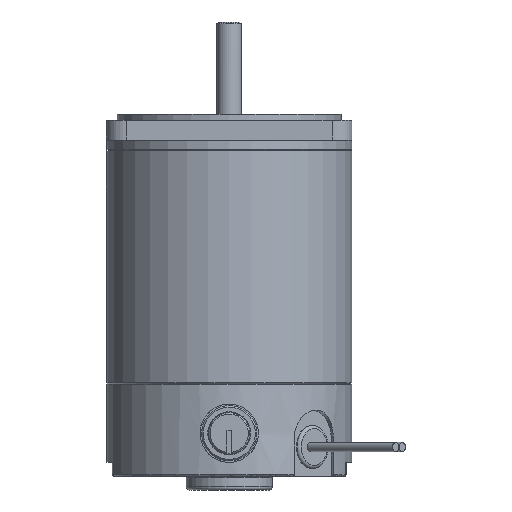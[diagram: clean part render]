
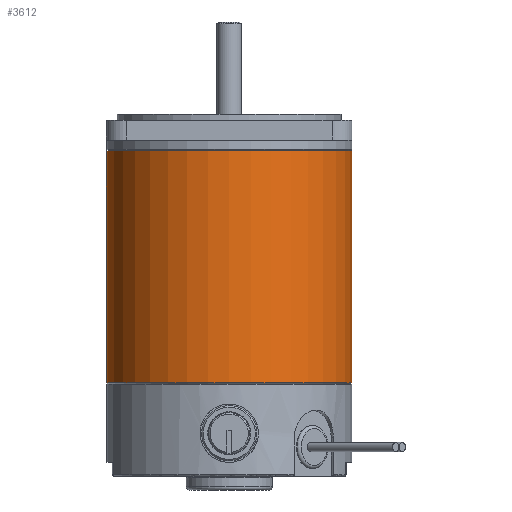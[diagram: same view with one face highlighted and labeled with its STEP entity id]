
A CAD part, front view. The second image highlights one B-rep face of the part: STEP entity #3612.
In plain terms, the highlighted cylindrical face has radius 40 mm (diameter 80 mm), a full revolution.
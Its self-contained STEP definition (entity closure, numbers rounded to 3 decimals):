
#3581=CARTESIAN_POINT('',(-40.0,0.,-79.0));
#3582=VERTEX_POINT('',#3581);
#3583=CARTESIAN_POINT('',(0.0,0.0,-79.0));
#3584=DIRECTION('',(0.0,0.0,-1.0));
#3585=DIRECTION('',(1.0,0.0,0.0));
#3586=AXIS2_PLACEMENT_3D('',#3583,#3584,#3585);
#3587=CIRCLE('',#3586,40.0);
#3588=EDGE_CURVE('',#3582,#3582,#3587,.T.);
#3593=CARTESIAN_POINT('',(0.0,0.0,-3.5));
#3594=DIRECTION('',(0.0,0.0,-1.0));
#3595=DIRECTION('',(1.0,0.0,0.0));
#3596=AXIS2_PLACEMENT_3D('',#3593,#3594,#3595);
#3597=CYLINDRICAL_SURFACE('',#3596,40.0);
#3598=CARTESIAN_POINT('',(-40.0,0.,-3.5));
#3599=VERTEX_POINT('',#3598);
#3600=CARTESIAN_POINT('',(0.0,0.0,-3.5));
#3601=DIRECTION('',(0.0,0.0,1.0));
#3602=DIRECTION('',(1.0,0.0,0.0));
#3603=AXIS2_PLACEMENT_3D('',#3600,#3601,#3602);
#3604=CIRCLE('',#3603,40.0);
#3605=EDGE_CURVE('',#3599,#3599,#3604,.T.);
#3606=ORIENTED_EDGE('',*,*,#3605,.F.);
#3607=EDGE_LOOP('',(#3606));
#3608=FACE_OUTER_BOUND('',#3607,.T.);
#3609=ORIENTED_EDGE('',*,*,#3588,.F.);
#3610=EDGE_LOOP('',(#3609));
#3611=FACE_BOUND('',#3610,.T.);
#3612=ADVANCED_FACE('',(#3608,#3611),#3597,.T.);
